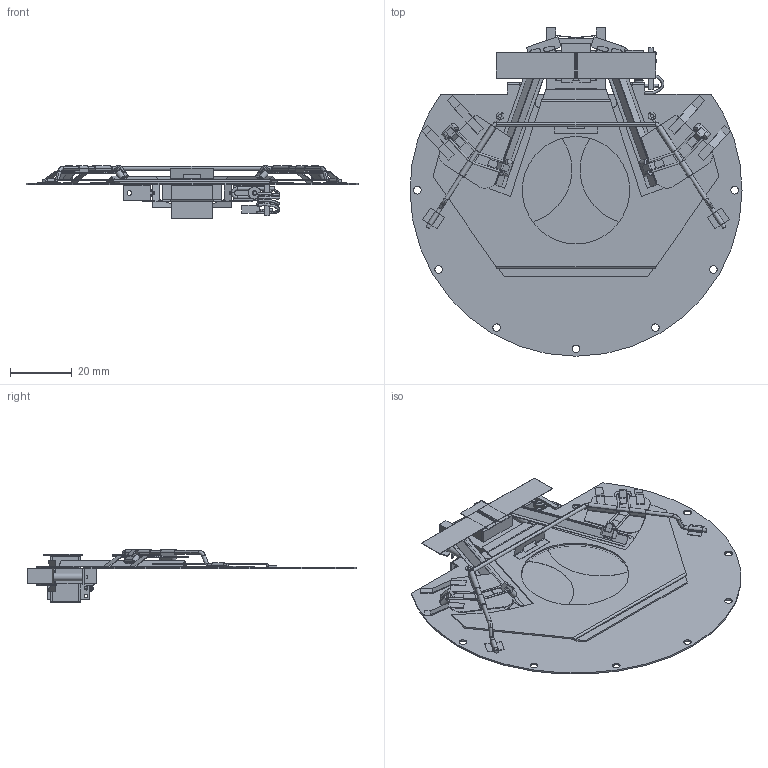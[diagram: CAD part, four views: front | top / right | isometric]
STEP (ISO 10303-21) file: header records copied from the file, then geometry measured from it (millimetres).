
FILE_DESCRIPTION (( 'STEP AP214' ), '1' );
FILE_NAME ('VS35 STD dumb.STEP', '2013-07-17T19:02:15', ( 'helen' ), ( 'Microsoft' ), 'SwSTEP 2.0', 'SolidWorks 2010', '' );
FILE_SCHEMA (( 'AUTOMOTIVE_DESIGN' ));
Length unit declared in the file: inch
Products named in the file (1): VS35 STD dumb
Bounding box: 107.95 x 106.78 x 17.36 mm (x, y, z)
Volume: 9221.4 mm3; surface area: 35271.5 mm2
Topology: 25 solids, 25 shells, 1128 faces, 2929 edges, 1825 vertices
Faces by surface type: plane 668, cylinder 312, cone 66, torus 64, bspline 16, sphere 2
Entity records: 51350 total; most frequent: CARTESIAN_POINT 8379, DIRECTION 5896, ORIENTED_EDGE 5842, EDGE_CURVE 2921, AXIS2_PLACEMENT_3D 2018, LINE 1860, VECTOR 1860, VERTEX_POINT 1825
